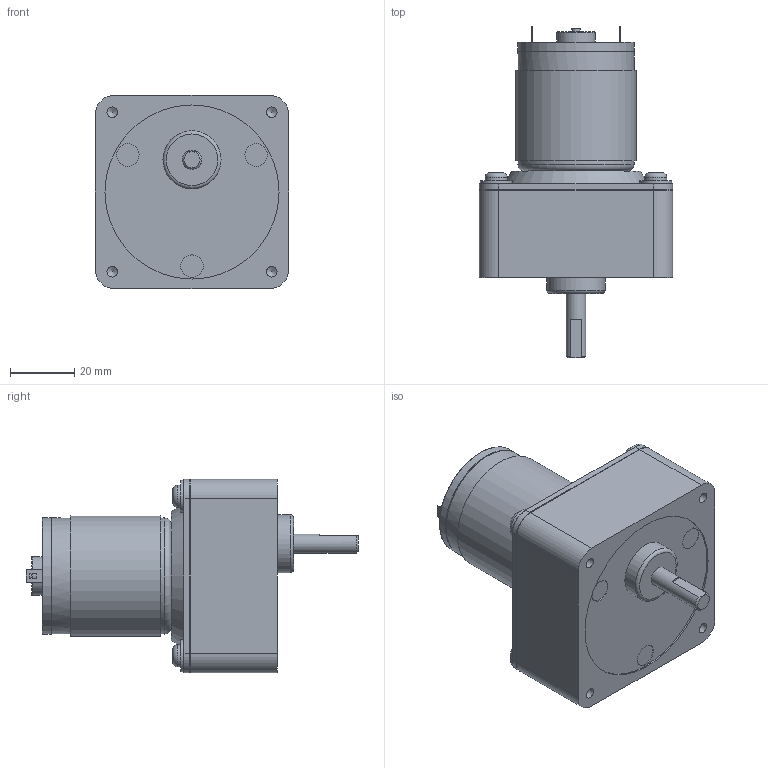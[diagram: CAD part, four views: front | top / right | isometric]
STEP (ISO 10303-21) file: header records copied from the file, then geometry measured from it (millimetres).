
FILE_DESCRIPTION((''),'2;1');
FILE_NAME('C:\Documents and Settings\SSEGAWA\デスクトップ\TP-3640B-CE.stp','2013-07-18T17:46:47',('SSEGAWA'),(''),'Autodesk Inventor 2010','Autodesk Inventor 2010','');
FILE_SCHEMA(('CONFIG_CONTROL_DESIGN'));
Length unit declared in the file: millimetre
Products named in the file (1): tp_3640bce_ce_Shrinkwrap_1
Bounding box: 60 x 103 x 60 mm (x, y, z)
Volume: 153567.1 mm3; surface area: 21036.7 mm2
Topology: 1 solids, 3 shells, 131 faces, 289 edges, 190 vertices
Faces by surface type: plane 70, cylinder 34, bspline 16, torus 8, cone 3
Full cylindrical faces by diameter (mm): 2.5 x1, 4 x1, 4.5 x1, 6 x1, 6.8 x4, 7 x3, 9.8 x4, 12 x1, 18 x1, 35.6 x1, 36 x2, 54 x1
Entity records: 3563 total; most frequent: CARTESIAN_POINT 753, DIRECTION 553, ORIENTED_EDGE 456, EDGE_CURVE 228, AXIS2_PLACEMENT_3D 211, EDGE_LOOP 205, VERTEX_POINT 173, STYLED_ITEM 132
